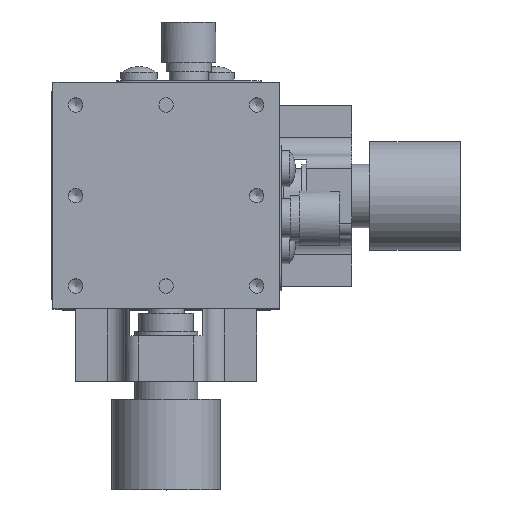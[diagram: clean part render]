
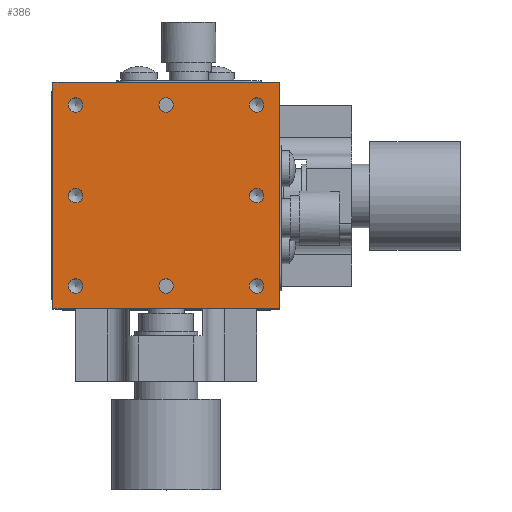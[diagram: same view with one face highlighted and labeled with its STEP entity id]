
A CAD part, top view. The second image highlights one B-rep face of the part: STEP entity #386.
In plain terms, the highlighted planar face has unit normal (0, 0, 1).
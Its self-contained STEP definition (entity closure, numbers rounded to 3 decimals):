
#386 = ADVANCED_FACE( '', ( #976, #977, #978, #979, #980, #981, #982, #983, #984 ), #985, .T. );
#976 = FACE_BOUND( '', #1844, .T. );
#977 = FACE_BOUND( '', #1845, .T. );
#978 = FACE_BOUND( '', #1846, .T. );
#979 = FACE_BOUND( '', #1847, .T. );
#980 = FACE_BOUND( '', #1848, .T. );
#981 = FACE_BOUND( '', #1849, .T. );
#982 = FACE_BOUND( '', #1850, .T. );
#983 = FACE_BOUND( '', #1851, .T. );
#984 = FACE_OUTER_BOUND( '', #1852, .T. );
#985 = PLANE( '', #1853 );
#1844 = EDGE_LOOP( '', ( #3493 ) );
#1845 = EDGE_LOOP( '', ( #3494 ) );
#1846 = EDGE_LOOP( '', ( #3495 ) );
#1847 = EDGE_LOOP( '', ( #3496 ) );
#1848 = EDGE_LOOP( '', ( #3497 ) );
#1849 = EDGE_LOOP( '', ( #3498 ) );
#1850 = EDGE_LOOP( '', ( #3499 ) );
#1851 = EDGE_LOOP( '', ( #3500 ) );
#1852 = EDGE_LOOP( '', ( #3501, #3502, #3503, #3504 ) );
#1853 = AXIS2_PLACEMENT_3D( '', #3505, #3506, #3507 );
#3493 = ORIENTED_EDGE( '', *, *, #5076, .T. );
#3494 = ORIENTED_EDGE( '', *, *, #5077, .T. );
#3495 = ORIENTED_EDGE( '', *, *, #5078, .T. );
#3496 = ORIENTED_EDGE( '', *, *, #5079, .T. );
#3497 = ORIENTED_EDGE( '', *, *, #5080, .T. );
#3498 = ORIENTED_EDGE( '', *, *, #5081, .T. );
#3499 = ORIENTED_EDGE( '', *, *, #5082, .T. );
#3500 = ORIENTED_EDGE( '', *, *, #5083, .T. );
#3501 = ORIENTED_EDGE( '', *, *, #5084, .F. );
#3502 = ORIENTED_EDGE( '', *, *, #5085, .F. );
#3503 = ORIENTED_EDGE( '', *, *, #5086, .F. );
#3504 = ORIENTED_EDGE( '', *, *, #5070, .F. );
#3505 = CARTESIAN_POINT( '', ( 0., 0., 30. ) );
#3506 = DIRECTION( '', ( 0., 0., 1. ) );
#3507 = DIRECTION( '', ( 0., -1., 0. ) );
#5070 = EDGE_CURVE( '', #6063, #6065, #6066, .T. );
#5076 = EDGE_CURVE( '', #6076, #6076, #6077, .T. );
#5077 = EDGE_CURVE( '', #6078, #6078, #6079, .T. );
#5078 = EDGE_CURVE( '', #6080, #6080, #6081, .T. );
#5079 = EDGE_CURVE( '', #6082, #6082, #6083, .T. );
#5080 = EDGE_CURVE( '', #6084, #6084, #6085, .T. );
#5081 = EDGE_CURVE( '', #6086, #6086, #6087, .T. );
#5082 = EDGE_CURVE( '', #6088, #6088, #6089, .T. );
#5083 = EDGE_CURVE( '', #6090, #6090, #6091, .T. );
#5084 = EDGE_CURVE( '', #6092, #6063, #6093, .T. );
#5085 = EDGE_CURVE( '', #6094, #6092, #6095, .T. );
#5086 = EDGE_CURVE( '', #6065, #6094, #6096, .T. );
#6063 = VERTEX_POINT( '', #7718 );
#6065 = VERTEX_POINT( '', #7721 );
#6066 = LINE( '', #7722, #7723 );
#6076 = VERTEX_POINT( '', #7738 );
#6077 = CIRCLE( '', #7739, 0.8 );
#6078 = VERTEX_POINT( '', #7740 );
#6079 = CIRCLE( '', #7741, 0.8 );
#6080 = VERTEX_POINT( '', #7742 );
#6081 = CIRCLE( '', #7743, 0.8 );
#6082 = VERTEX_POINT( '', #7744 );
#6083 = CIRCLE( '', #7745, 0.8 );
#6084 = VERTEX_POINT( '', #7746 );
#6085 = CIRCLE( '', #7747, 0.8 );
#6086 = VERTEX_POINT( '', #7748 );
#6087 = CIRCLE( '', #7749, 0.8 );
#6088 = VERTEX_POINT( '', #7750 );
#6089 = CIRCLE( '', #7751, 0.8 );
#6090 = VERTEX_POINT( '', #7752 );
#6091 = CIRCLE( '', #7753, 0.8 );
#6092 = VERTEX_POINT( '', #7754 );
#6093 = LINE( '', #7755, #7756 );
#6094 = VERTEX_POINT( '', #7757 );
#6095 = LINE( '', #7758, #7759 );
#6096 = LINE( '', #7760, #7761 );
#7718 = CARTESIAN_POINT( '', ( -12.5, 12.5, 30. ) );
#7721 = CARTESIAN_POINT( '', ( 12.5, 12.5, 30. ) );
#7722 = CARTESIAN_POINT( '', ( 0., 12.5, 30. ) );
#7723 = VECTOR( '', #9330, 1000. );
#7738 = CARTESIAN_POINT( '', ( -0.8, 10., 30. ) );
#7739 = AXIS2_PLACEMENT_3D( '', #9336, #9337, #9338 );
#7740 = CARTESIAN_POINT( '', ( 9.2, 10., 30. ) );
#7741 = AXIS2_PLACEMENT_3D( '', #9339, #9340, #9341 );
#7742 = CARTESIAN_POINT( '', ( 9.2, 0., 30. ) );
#7743 = AXIS2_PLACEMENT_3D( '', #9342, #9343, #9344 );
#7744 = CARTESIAN_POINT( '', ( 9.2, -10., 30. ) );
#7745 = AXIS2_PLACEMENT_3D( '', #9345, #9346, #9347 );
#7746 = CARTESIAN_POINT( '', ( -0.8, -10., 30. ) );
#7747 = AXIS2_PLACEMENT_3D( '', #9348, #9349, #9350 );
#7748 = CARTESIAN_POINT( '', ( -10.8, -10., 30. ) );
#7749 = AXIS2_PLACEMENT_3D( '', #9351, #9352, #9353 );
#7750 = CARTESIAN_POINT( '', ( -10.8, 0., 30. ) );
#7751 = AXIS2_PLACEMENT_3D( '', #9354, #9355, #9356 );
#7752 = CARTESIAN_POINT( '', ( -10.8, 10., 30. ) );
#7753 = AXIS2_PLACEMENT_3D( '', #9357, #9358, #9359 );
#7754 = CARTESIAN_POINT( '', ( -12.5, -12.5, 30. ) );
#7755 = CARTESIAN_POINT( '', ( -12.5, 0., 30. ) );
#7756 = VECTOR( '', #9360, 1000. );
#7757 = CARTESIAN_POINT( '', ( 12.5, -12.5, 30. ) );
#7758 = CARTESIAN_POINT( '', ( 0., -12.5, 30. ) );
#7759 = VECTOR( '', #9361, 1000. );
#7760 = CARTESIAN_POINT( '', ( 12.5, 0., 30. ) );
#7761 = VECTOR( '', #9362, 1000. );
#9330 = DIRECTION( '', ( 1., 0., 0. ) );
#9336 = CARTESIAN_POINT( '', ( 0., 10., 30. ) );
#9337 = DIRECTION( '', ( 0., 0., -1. ) );
#9338 = DIRECTION( '', ( -1., 0., 0. ) );
#9339 = CARTESIAN_POINT( '', ( 10., 10., 30. ) );
#9340 = DIRECTION( '', ( 0., 0., -1. ) );
#9341 = DIRECTION( '', ( -1., 0., 0. ) );
#9342 = CARTESIAN_POINT( '', ( 10., 0., 30. ) );
#9343 = DIRECTION( '', ( 0., 0., -1. ) );
#9344 = DIRECTION( '', ( -1., 0., 0. ) );
#9345 = CARTESIAN_POINT( '', ( 10., -10., 30. ) );
#9346 = DIRECTION( '', ( 0., 0., -1. ) );
#9347 = DIRECTION( '', ( -1., 0., 0. ) );
#9348 = CARTESIAN_POINT( '', ( 0., -10., 30. ) );
#9349 = DIRECTION( '', ( 0., 0., -1. ) );
#9350 = DIRECTION( '', ( -1., 0., 0. ) );
#9351 = CARTESIAN_POINT( '', ( -10., -10., 30. ) );
#9352 = DIRECTION( '', ( 0., 0., -1. ) );
#9353 = DIRECTION( '', ( -1., 0., 0. ) );
#9354 = CARTESIAN_POINT( '', ( -10., 0., 30. ) );
#9355 = DIRECTION( '', ( 0., 0., -1. ) );
#9356 = DIRECTION( '', ( -1., 0., 0. ) );
#9357 = CARTESIAN_POINT( '', ( -10., 10., 30. ) );
#9358 = DIRECTION( '', ( 0., 0., -1. ) );
#9359 = DIRECTION( '', ( -1., 0., 0. ) );
#9360 = DIRECTION( '', ( 0., 1., 0. ) );
#9361 = DIRECTION( '', ( -1., 0., 0. ) );
#9362 = DIRECTION( '', ( 0., -1., 0. ) );
